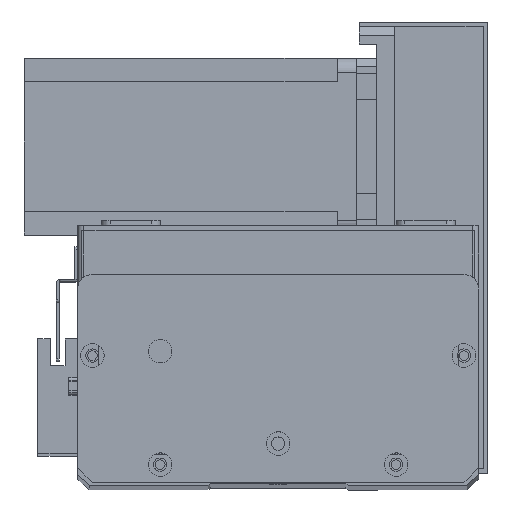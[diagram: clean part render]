
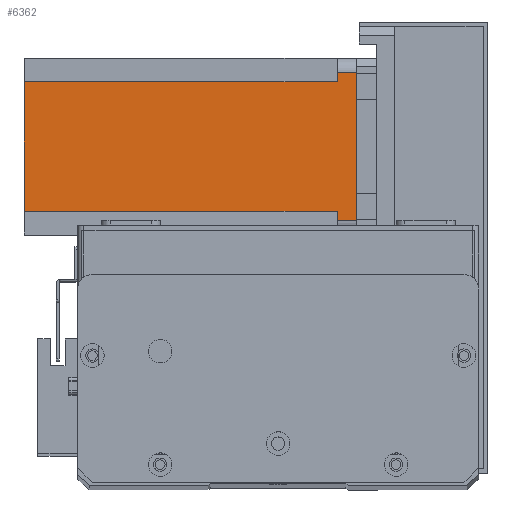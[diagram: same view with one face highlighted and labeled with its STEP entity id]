
A CAD part, top view. The second image highlights one B-rep face of the part: STEP entity #6362.
In plain terms, the highlighted planar face has unit normal (0, 0, 1) as drawn and (0, 1, 0) by its records, which use the part's own axes.
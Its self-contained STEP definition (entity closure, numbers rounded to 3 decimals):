
#434 = EDGE_CURVE ( 'NONE', #13685, #10212, #25987, .T. ) ;
#819 = LINE ( 'NONE', #20626, #28484 ) ;
#1745 = ORIENTED_EDGE ( 'NONE', *, *, #6099, .F. ) ;
#2340 = EDGE_CURVE ( 'NONE', #26395, #20986, #11402, .T. ) ;
#2413 = EDGE_CURVE ( 'NONE', #26310, #6625, #21796, .T. ) ;
#2511 = FACE_OUTER_BOUND ( 'NONE', #3034, .T. ) ;
#3034 = EDGE_LOOP ( 'NONE', ( #25902, #5302, #25698, #1745, #17336, #10531, #4705, #25184 ) ) ;
#3355 = EDGE_CURVE ( 'NONE', #7152, #10212, #8910, .T. ) ;
#3914 = CARTESIAN_POINT ( 'NONE',  ( 55., 60., -112.5 ) ) ;
#4705 = ORIENTED_EDGE ( 'NONE', *, *, #5912, .T. ) ;
#5302 = ORIENTED_EDGE ( 'NONE', *, *, #8919, .T. ) ;
#5393 = CARTESIAN_POINT ( 'NONE',  ( 5., 60., -112.5 ) ) ;
#5912 = EDGE_CURVE ( 'NONE', #26395, #7152, #27700, .T. ) ;
#6011 = VECTOR ( 'NONE', #14418, 1000. ) ;
#6099 = EDGE_CURVE ( 'NONE', #20210, #26310, #23648, .T. ) ;
#6362 = ADVANCED_FACE ( 'NONE', ( #2511 ), #12561, .T. ) ;
#6456 = DIRECTION ( 'NONE',  ( 0., 0., -1. ) ) ;
#6625 = VERTEX_POINT ( 'NONE', #26917 ) ;
#7152 = VERTEX_POINT ( 'NONE', #14752 ) ;
#7773 = DIRECTION ( 'NONE',  ( 0., 0., 1. ) ) ;
#8197 = VECTOR ( 'NONE', #7773, 1000. ) ;
#8337 = VECTOR ( 'NONE', #9167, 1000. ) ;
#8910 = LINE ( 'NONE', #5393, #8197 ) ;
#8919 = EDGE_CURVE ( 'NONE', #13685, #6625, #20431, .T. ) ;
#9167 = DIRECTION ( 'NONE',  ( -1., 0., 0. ) ) ;
#10212 = VERTEX_POINT ( 'NONE', #16697 ) ;
#10431 = CARTESIAN_POINT ( 'NONE',  ( 8., 60., -6.5 ) ) ;
#10531 = ORIENTED_EDGE ( 'NONE', *, *, #2340, .F. ) ;
#11377 = DIRECTION ( 'NONE',  ( 0., 0., 1. ) ) ;
#11402 = LINE ( 'NONE', #14651, #6011 ) ;
#11474 = DIRECTION ( 'NONE',  ( 0., 1., 0. ) ) ;
#11840 = CARTESIAN_POINT ( 'NONE',  ( 0., 60., -112.5 ) ) ;
#11858 = DIRECTION ( 'NONE',  ( 1., 0., 0. ) ) ;
#11985 = CARTESIAN_POINT ( 'NONE',  ( 52., 60., -6.5 ) ) ;
#12323 = CARTESIAN_POINT ( 'NONE',  ( 8., 60., -112.5 ) ) ;
#12561 = PLANE ( 'NONE',  #22460 ) ;
#12629 = VECTOR ( 'NONE', #23794, 1000. ) ;
#13685 = VERTEX_POINT ( 'NONE', #27377 ) ;
#13890 = EDGE_CURVE ( 'NONE', #20210, #20986, #819, .T. ) ;
#14092 = CARTESIAN_POINT ( 'NONE',  ( 0., 60., 0. ) ) ;
#14418 = DIRECTION ( 'NONE',  ( 0., 0., -1. ) ) ;
#14651 = CARTESIAN_POINT ( 'NONE',  ( 8., 60., -112.5 ) ) ;
#14752 = CARTESIAN_POINT ( 'NONE',  ( 5., 60., -6.5 ) ) ;
#15333 = CARTESIAN_POINT ( 'NONE',  ( 8., 60., -6.5 ) ) ;
#16104 = VECTOR ( 'NONE', #25611, 1000. ) ;
#16621 = CARTESIAN_POINT ( 'NONE',  ( 52., 60., -6.5 ) ) ;
#16697 = CARTESIAN_POINT ( 'NONE',  ( 5., 60., 0. ) ) ;
#17336 = ORIENTED_EDGE ( 'NONE', *, *, #13890, .T. ) ;
#20210 = VERTEX_POINT ( 'NONE', #25480 ) ;
#20431 = LINE ( 'NONE', #3914, #26246 ) ;
#20534 = DIRECTION ( 'NONE',  ( -1., 0., 0. ) ) ;
#20626 = CARTESIAN_POINT ( 'NONE',  ( 0., 60., -112.5 ) ) ;
#20986 = VERTEX_POINT ( 'NONE', #12323 ) ;
#21796 = LINE ( 'NONE', #11985, #26204 ) ;
#22460 = AXIS2_PLACEMENT_3D ( 'NONE', #11840, #11474, #11377 ) ;
#23648 = LINE ( 'NONE', #23944, #12629 ) ;
#23794 = DIRECTION ( 'NONE',  ( 0., 0., 1. ) ) ;
#23944 = CARTESIAN_POINT ( 'NONE',  ( 52., 60., -112.5 ) ) ;
#25184 = ORIENTED_EDGE ( 'NONE', *, *, #3355, .T. ) ;
#25480 = CARTESIAN_POINT ( 'NONE',  ( 52., 60., -112.5 ) ) ;
#25611 = DIRECTION ( 'NONE',  ( -1., 0., 0. ) ) ;
#25698 = ORIENTED_EDGE ( 'NONE', *, *, #2413, .F. ) ;
#25902 = ORIENTED_EDGE ( 'NONE', *, *, #434, .F. ) ;
#25987 = LINE ( 'NONE', #14092, #8337 ) ;
#26204 = VECTOR ( 'NONE', #11858, 1000. ) ;
#26246 = VECTOR ( 'NONE', #6456, 1000. ) ;
#26310 = VERTEX_POINT ( 'NONE', #16621 ) ;
#26395 = VERTEX_POINT ( 'NONE', #10431 ) ;
#26917 = CARTESIAN_POINT ( 'NONE',  ( 55., 60., -6.5 ) ) ;
#27377 = CARTESIAN_POINT ( 'NONE',  ( 55., 60., 0. ) ) ;
#27700 = LINE ( 'NONE', #15333, #16104 ) ;
#28484 = VECTOR ( 'NONE', #20534, 1000. ) ;
